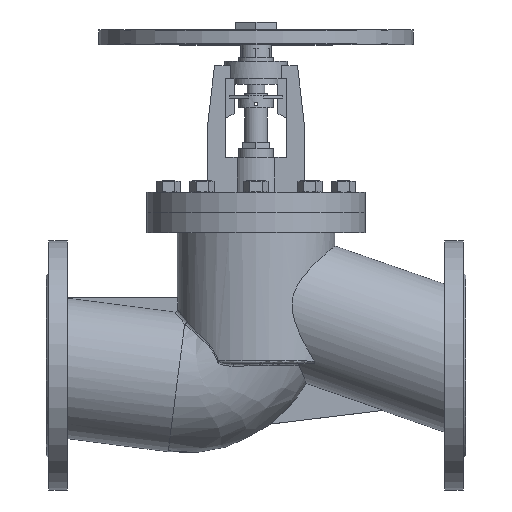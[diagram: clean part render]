
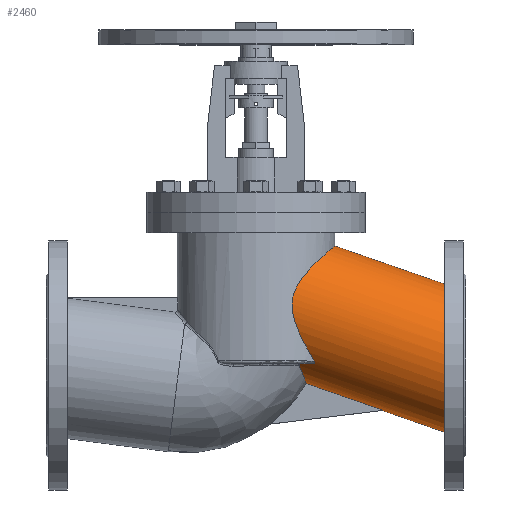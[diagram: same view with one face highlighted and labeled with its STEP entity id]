
A CAD part, top view. The second image highlights one B-rep face of the part: STEP entity #2460.
In plain terms, the highlighted cylindrical face has radius 80 mm (diameter 160 mm), a partial arc.
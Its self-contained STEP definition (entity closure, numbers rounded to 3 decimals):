
#252=CARTESIAN_POINT('',(90.,136.81,0.));
#253=CARTESIAN_POINT('',(90.,136.81,3.875));
#254=CARTESIAN_POINT('',(89.511,136.398,11.708));
#255=CARTESIAN_POINT('',(87.075,134.333,23.832));
#256=CARTESIAN_POINT('',(83.157,130.963,35.069));
#257=CARTESIAN_POINT('',(78.174,126.564,44.983));
#258=CARTESIAN_POINT('',(72.982,121.824,52.943));
#259=CARTESIAN_POINT('',(66.945,116.042,60.403));
#260=CARTESIAN_POINT('',(60.449,109.328,66.874));
#261=CARTESIAN_POINT('',(53.929,101.716,72.19));
#262=CARTESIAN_POINT('',(48.395,93.784,75.946));
#263=CARTESIAN_POINT('',(44.557,86.36,78.223));
#264=CARTESIAN_POINT('',(41.958,78.502,79.63));
#265=CARTESIAN_POINT('',(40.934,69.671,80.151));
#266=CARTESIAN_POINT('',(41.715,60.618,79.754));
#267=CARTESIAN_POINT('',(43.933,51.463,78.57));
#268=CARTESIAN_POINT('',(47.255,42.201,76.638));
#269=CARTESIAN_POINT('',(51.408,32.82,73.939));
#270=CARTESIAN_POINT('',(56.153,23.392,70.429));
#271=CARTESIAN_POINT('',(61.275,14.027,66.046));
#272=CARTESIAN_POINT('',(64.773,7.979,62.54));
#273=CARTESIAN_POINT('',(66.529,5.,60.613));
#350=CARTESIAN_POINT('',(49.343,-0.012,49.829));
#361=CARTESIAN_POINT('',(49.343,-0.012,49.829));
#362=CARTESIAN_POINT('',(50.335,-2.351,47.463));
#363=CARTESIAN_POINT('',(52.105,-6.641,42.55));
#364=CARTESIAN_POINT('',(54.18,-11.877,34.81));
#365=CARTESIAN_POINT('',(55.747,-15.957,26.788));
#366=CARTESIAN_POINT('',(56.862,-18.927,18.52));
#367=CARTESIAN_POINT('',(57.323,-20.175,12.852));
#368=CARTESIAN_POINT('',(57.484,-20.611,10.));
#506=CARTESIAN_POINT('',(66.529,5.,60.613));
#507=CARTESIAN_POINT('',(66.723,4.669,60.399));
#508=CARTESIAN_POINT('',(66.982,4.043,59.958));
#509=CARTESIAN_POINT('',(67.02,3.187,59.245));
#510=CARTESIAN_POINT('',(66.72,2.525,58.579));
#511=CARTESIAN_POINT('',(66.052,2.083,57.979));
#512=CARTESIAN_POINT('',(65.494,2.,57.728));
#513=CARTESIAN_POINT('',(65.177,2.,57.628));
#520=CARTESIAN_POINT('',(50.649,2.,52.622));
#521=CARTESIAN_POINT('',(50.39,2.,52.525));
#522=CARTESIAN_POINT('',(49.938,1.935,52.284));
#523=CARTESIAN_POINT('',(49.447,1.665,51.799));
#524=CARTESIAN_POINT('',(49.162,1.222,51.19));
#525=CARTESIAN_POINT('',(49.124,0.641,50.509));
#526=CARTESIAN_POINT('',(49.247,0.215,50.059));
#527=CARTESIAN_POINT('',(49.343,-0.012,49.829));
#529=CARTESIAN_POINT('',(216.,93.03,0.));
#530=CARTESIAN_POINT('',(216.,93.03,10.359));
#531=CARTESIAN_POINT('',(216.,89.701,27.501));
#532=CARTESIAN_POINT('',(216.,76.314,48.96));
#533=CARTESIAN_POINT('',(216.,62.171,62.752));
#534=CARTESIAN_POINT('',(216.,44.95,72.967));
#535=CARTESIAN_POINT('',(216.,26.214,78.898));
#536=CARTESIAN_POINT('',(216.,10.72,80.316));
#537=CARTESIAN_POINT('',(216.,-1.007,79.648));
#538=CARTESIAN_POINT('',(216.,-9.245,78.386));
#539=CARTESIAN_POINT('',(216.,-17.317,76.383));
#540=CARTESIAN_POINT('',(216.,-28.323,72.501));
#541=CARTESIAN_POINT('',(216.,-41.876,65.269));
#542=CARTESIAN_POINT('',(216.,-56.455,52.669));
#543=CARTESIAN_POINT('',(216.,-67.81,36.735));
#544=CARTESIAN_POINT('',(216.,-74.816,18.709));
#545=CARTESIAN_POINT('',(216.,-77.839,-6.034));
#546=CARTESIAN_POINT('',(216.,-73.522,-22.978));
#547=CARTESIAN_POINT('',(216.,-69.074,-32.447));
#549=DIRECTION('',(-0.945,0.328,0.));
#550=VECTOR('',#549,73.36);
#551=CARTESIAN_POINT('',(213.743,-75.568,0.));
#552=LINE('',#551,#550);
#553=CARTESIAN_POINT('',(144.447,-51.491,0.));
#554=CARTESIAN_POINT('',(144.447,-51.491,3.347));
#555=CARTESIAN_POINT('',(144.55,-51.305,6.68));
#556=CARTESIAN_POINT('',(144.755,-50.934,10.));
#558=DIRECTION('',(-0.945,0.328,0.));
#559=VECTOR('',#558,92.389);
#560=CARTESIAN_POINT('',(144.755,-50.934,10.));
#561=LINE('',#560,#559);
#562=CARTESIAN_POINT('',(50.649,2.,52.622));
#573=CARTESIAN_POINT('',(50.649,2.,52.622));
#574=CARTESIAN_POINT('',(52.93,2.,53.479));
#575=CARTESIAN_POINT('',(57.632,2.,55.173));
#576=CARTESIAN_POINT('',(62.615,2.,56.818));
#577=CARTESIAN_POINT('',(65.177,2.,57.628));
#666=CARTESIAN_POINT('',(240.,0.,0.));
#667=DIRECTION('',(-0.945,0.328,0.));
#668=DIRECTION('',(-0.3,-0.863,-0.406));
#669=AXIS2_PLACEMENT_3D('',#666,#667,#668);
#671=DIRECTION('',(-0.945,0.328,0.));
#672=VECTOR('',#671,133.389);
#673=CARTESIAN_POINT('',(216.,93.03,0.));
#674=LINE('',#673,#672);
#1315=CARTESIAN_POINT('',(216.,93.03,0.));
#1345=CARTESIAN_POINT('',(216.,-69.074,-32.447));
#1771=CARTESIAN_POINT('',(90.,136.81,0.));
#1772=VERTEX_POINT('',#1771);
#1773=VERTEX_POINT('',#1315);
#1774=VERTEX_POINT('',#1345);
#1780=CARTESIAN_POINT('',(57.484,-20.611,10.));
#1782=VERTEX_POINT('',#1780);
#1783=CARTESIAN_POINT('',(144.755,-50.934,10.));
#1784=VERTEX_POINT('',#1783);
#1787=CARTESIAN_POINT('',(213.743,-75.568,0.));
#1788=CARTESIAN_POINT('',(144.447,-51.491,
0.));
#1789=VERTEX_POINT('',#1787);
#1790=VERTEX_POINT('',#1788);
#1793=VERTEX_POINT('',#273);
#1796=VERTEX_POINT('',#513);
#1801=VERTEX_POINT('',#350);
#1802=VERTEX_POINT('',#562);
#2435=CARTESIAN_POINT('',(240.,0.,0.));
#2436=DIRECTION('',(-0.945,0.328,0.));
#2437=DIRECTION('',(-0.328,-0.945,0.));
#2438=AXIS2_PLACEMENT_3D('',#2435,#2436,#2437);
#2439=CYLINDRICAL_SURFACE('',#2438,80.);
#2441=ORIENTED_EDGE('',*,*,#2440,.F.);
#2443=ORIENTED_EDGE('',*,*,#2442,.T.);
#2444=ORIENTED_EDGE('',*,*,#2428,.F.);
#2445=ORIENTED_EDGE('',*,*,#2199,.F.);
#2447=ORIENTED_EDGE('',*,*,#2446,.F.);
#2449=ORIENTED_EDGE('',*,*,#2448,.T.);
#2451=ORIENTED_EDGE('',*,*,#2450,.T.);
#2453=ORIENTED_EDGE('',*,*,#2452,.T.);
#2455=ORIENTED_EDGE('',*,*,#2454,.T.);
#2456=ORIENTED_EDGE('',*,*,#2217,.T.);
#2457=ORIENTED_EDGE('',*,*,#2278,.F.);
#2458=EDGE_LOOP('',(#2441,#2443,#2444,#2445,#2447,#2449,#2451,#2453,#2455,#2456,
#2457));
#2459=FACE_OUTER_BOUND('',#2458,.F.);
#2460=ADVANCED_FACE('',(#2459),#2439,.T.);
#274=B_SPLINE_CURVE_WITH_KNOTS('',3,(#252,#253,#254,#255,#256,#257,#258,#259,
#260,#261,#262,#263,#264,#265,#266,#267,#268,#269,#270,#271,#272,#273),
.UNSPECIFIED.,.F.,.F.,(4,1,1,1,1,1,1,1,1,1,1,1,1,1,1,1,1,1,1,4),(0.,
0.053,0.105,0.158,0.211,
0.263,0.316,0.368,0.421,
0.474,0.526,0.579,0.632,
0.684,0.737,0.789,0.842,
0.895,0.947,1.),.UNSPECIFIED.);
#369=B_SPLINE_CURVE_WITH_KNOTS('',3,(#361,#362,#363,#364,#365,#366,#367,#368),
.UNSPECIFIED.,.F.,.F.,(4,1,1,1,1,4),(0.,0.2,0.4,0.6,0.8,1.),
.UNSPECIFIED.);
#514=B_SPLINE_CURVE_WITH_KNOTS('',3,(#506,#507,#508,#509,#510,#511,#512,#513),
.UNSPECIFIED.,.F.,.F.,(4,1,1,1,1,4),(0.,0.2,0.4,0.6,0.8,1.),
.UNSPECIFIED.);
#528=B_SPLINE_CURVE_WITH_KNOTS('',3,(#520,#521,#522,#523,#524,#525,#526,#527),
.UNSPECIFIED.,.F.,.F.,(4,1,1,1,1,4),(0.,0.2,0.4,0.6,0.8,1.),
.UNSPECIFIED.);
#548=B_SPLINE_CURVE_WITH_KNOTS('',3,(#529,#530,#531,#532,#533,#534,#535,#536,
#537,#538,#539,#540,#541,#542,#543,#544,#545,#546,#547),.UNSPECIFIED.,.F.,.F.,
(4,1,1,1,1,1,1,1,1,1,1,1,1,1,1,1,4),(0.,0.125,0.188,0.25,0.313,
0.375,0.438,0.469,0.5,0.531,0.563,0.625,0.688,0.75,
0.813,0.875,1.),.UNSPECIFIED.);
#557=B_SPLINE_CURVE_WITH_KNOTS('',3,(#553,#554,#555,#556),.UNSPECIFIED.,.F.,.F.,
(4,4),(0.,1.),.UNSPECIFIED.);
#578=B_SPLINE_CURVE_WITH_KNOTS('',3,(#573,#574,#575,#576,#577),.UNSPECIFIED.,
.F.,.F.,(4,1,4),(0.,0.5,1.),.UNSPECIFIED.);
#670=CIRCLE('',#669,80.);
#2199=EDGE_CURVE('',#1772,#1793,#274,.T.);
#2217=EDGE_CURVE('',#1784,#1782,#561,.T.);
#2278=EDGE_CURVE('',#1801,#1782,#369,.T.);
#2428=EDGE_CURVE('',#1793,#1796,#514,.T.);
#2440=EDGE_CURVE('',#1802,#1801,#528,.T.);
#2442=EDGE_CURVE('',#1802,#1796,#578,.T.);
#2446=EDGE_CURVE('',#1773,#1772,#674,.T.);
#2448=EDGE_CURVE('',#1773,#1774,#548,.T.);
#2450=EDGE_CURVE('',#1774,#1789,#670,.T.);
#2452=EDGE_CURVE('',#1789,#1790,#552,.T.);
#2454=EDGE_CURVE('',#1790,#1784,#557,.T.);
